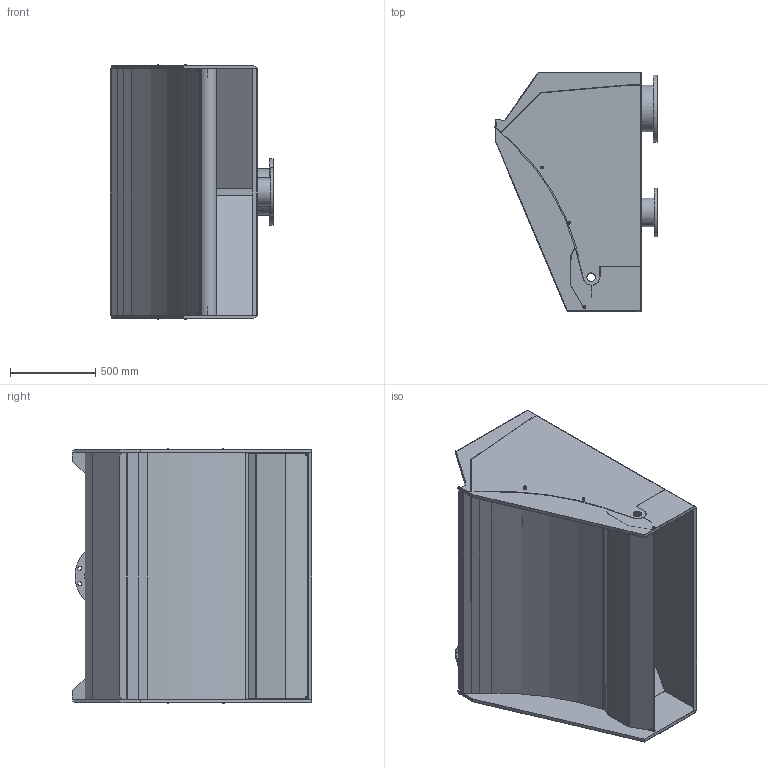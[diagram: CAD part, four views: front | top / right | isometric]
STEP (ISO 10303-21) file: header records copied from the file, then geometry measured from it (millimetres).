
FILE_DESCRIPTION(/* description */ (''),/* implementation_level */ '2;1');
FILE_NAME(/* name */ 'C:\Temp DWG\TS1500-1.stp',/* time_stamp */ '2016-04-05T15:21:16+02:00',/* author */ ('AO'),/* organization */ (''),/* preprocessor_version */ 'ST-DEVELOPER v15.6',/* originating_system */ 'Autodesk Inventor 2015',/* authorisation */ '');
FILE_SCHEMA (('AUTOMOTIVE_DESIGN { 1 0 10303 214 3 1 1 }'));
Products named in the file (1): TS1500-1
Bounding box: 958.53 x 1405 x 1502.2 mm (x, y, z)
Volume: 28581095.9 mm3; surface area: 18008375.7 mm2
Topology: 2 solids, 10 shells, 2812 faces, 7357 edges, 4864 vertices
Faces by surface type: plane 1725, bspline 773, cylinder 188, cone 114, torus 8, sphere 4
Full cylindrical faces by diameter (mm): 4 x4, 4.2 x4, 5.459 x6, 6 x10, 6.4 x8, 6.647 x4, 7 x6, 8 x6, 8.1 x4, 8.4 x4, 8.7 x6, 9 x4, 11 x4, 12 x10, 12.5 x6, 16 x4, 18 x2, 22 x20, 50 x2, 164.3 x1, 166 x1, 168.3 x1, 173 x1, 212 x1, 269 x1, 270 x1, 273 x1, 279 x1, 285 x1, 320 x1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
Entity records: 93476 total; most frequent: CARTESIAN_POINT 27613, ORIENTED_EDGE 14208, DIRECTION 9875, EDGE_CURVE 7087, VERTEX_POINT 4782, LINE 4735, VECTOR 4735, EDGE_LOOP 3402
